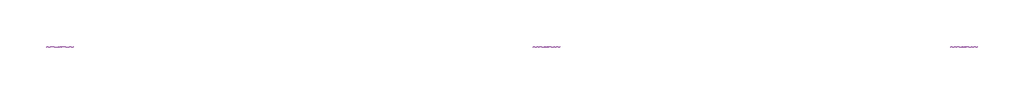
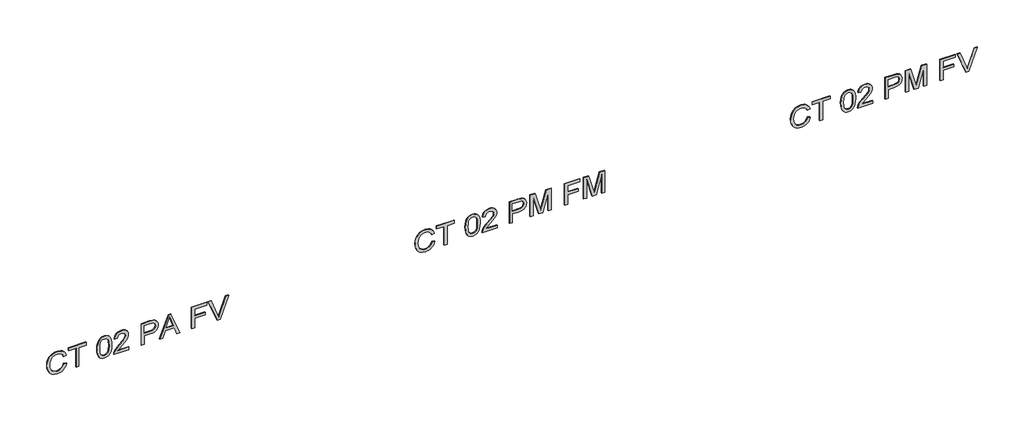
# One storey, part 2 of 2: 3 proxies.
"""IFC4 building model written with IfcOpenShell, lengths in millimetres."""

from ifc_helpers import new_model, si_unit, frame, origin, place, context, project, spatial, polyline, outline, extrude, element, save

model = new_model("IFC4")

# Units and contexts
model_context = context("Model", 3, world=origin())
ifc_project = project(units=[si_unit("LENGTHUNIT", "METRE", prefix="MILLI")], contexts=[model_context])

# Site, building, storey
site = spatial("IfcSite", under=ifc_project)
building = spatial("IfcBuilding", under=site)
storey = spatial("IfcBuildingStorey", under=building, Name="02 - Marelli - Planta Baixa - Cabine 02 Pessoas", Elevation=-12000.0)

# Proxies
placement = place(None, origin())
element("IfcBuildingElementProxy", 1, Name="300mm Arial", ObjectType="300mm Arial", at=placement, inside=storey, context=model_context, shape_type="SweptSolid", body=[
    extrude(outline(polyline([(-6192.872763, 2890.8602614), (-6225.136014, 2878.6741703), (-6248.3493679, 2858.891316), (-6262.3656719, 2832.6889209), (-6267.0377732, 2801.2442074), (-6263.6072736, 2774.2692601), (-6253.3157748, 2749.2624815), (-6236.0897004, 2728.4035724), (-6211.855474, 2713.8722335), (-6181.7627268, 2705.3465683), (-6146.96109, 2702.5046799), (-6118.5422059, 2704.9051099), (-6090.9694503, 2712.1064), (-6066.5788741, 2725.2305901), (-6047.7065277, 2745.3997205), (-6035.6216042, 2771.9791947), (-6031.5932963, 2804.3344162), (-6035.226131, 2832.4038124), (-6046.1246351, 2855.2492843), (-6064.9693903, 2873.0915611), (-6092.4409783, 2886.1513719), (-6083.4646576, 2923.8224882), (-6045.6463885, 2907.185025), (-6030.3241034, 2895.3829107), (-6017.3930513, 2881.2585414), (-6007.1245451, 2865.0786314), (-5999.7898978, 2847.1098951), (-5993.92218, 2805.8059441), (-5998.4563256, 2767.9508868), (-6012.0587624, 2733.4067675), (-6034.3983965, 2704.2797105), (-6065.1441343, 2682.6758404), (-6103.0911621, 2669.2941328), (-6147.0346664, 2664.8335636), (-6188.6973024, 2668.779098), (-6227.6008233, 2680.6157012), (-6260.6918088, 2700.0030823), (-6284.9168382, 2726.6009506), (-6299.7608767, 2761.3014198), (-6304.7088895, 2804.9966038), (-6303.0741139, 2827.4190114), (-6298.1697871, 2848.0387972), (-6289.995909, 2866.8559612), (-6278.5524797, 2883.8705035), (-6263.995849, 2898.7467317), (-6246.4823668, 2911.1489535), (-6226.012033, 2921.0771688), (-6202.5848477, 2928.5313777), (-6192.872763, 2890.8602614)])), frame((0.0, 8778.3159498, 0.0), z_axis=(0.0, 1.0, 0.0), x_axis=(0.0, 0.0, 1.0)), (0.0, 0.0, 1.0), 10.0),
    extrude(outline(polyline([(-6300.0, 3055.6713953), (-6300.0, 3093.3425116), (-6036.3021859, 3093.3425116), (-6036.3021859, 3192.2291919), (-5998.6310696, 3192.2291919), (-5998.6310696, 2956.784715), (-6036.3021859, 2956.784715), (-6036.3021859, 3055.6713953), (-6300.0, 3055.6713953)])), frame((0.0, 8778.3159498, 0.0), z_axis=(0.0, 1.0, 0.0), x_axis=(0.0, 0.0, 1.0)), (0.0, 0.0, 1.0), 10.0),
    extrude(outline(polyline([(-6151.7435559, 3338.2047676), (-6191.1851044, 3340.0809657), (-6225.0440435, 3345.7095603), (-6253.3203733, 3355.0905511), (-6276.0140939, 3368.2239384), (-6288.568067, 3381.9091486), (-6297.5351906, 3397.9488036), (-6302.9154648, 3416.3429033), (-6304.7088895, 3437.0914479), (-6300.5794141, 3467.54288), (-6288.190988, 3492.2369589), (-6267.4056552, 3511.3392315), (-6238.0854602, 3525.0152447), (-6199.7061711, 3533.2374073), (-6151.7435559, 3535.9781282), (-6111.7823742, 3534.2674769), (-6080.9262719, 3529.1355231), (-6056.6276661, 3521.2996366), (-6036.3389741, 3511.4771873), (-6020.1981515, 3498.4725588), (-6008.3431542, 3481.0901345), (-6001.0590907, 3460.3048018), (-5998.6310696, 3437.0914479), (-6002.7329538, 3406.8055626), (-6015.0386065, 3382.166666), (-6035.7411658, 3363.0368022), (-6065.0337697, 3349.2780156), (-6103.5050293, 3340.9730796), (-6151.7435559, 3338.2047676)]), holes=[polyline([(-6151.6699795, 3375.8758839), (-6093.1767423, 3380.4376206), (-6072.097104, 3386.1397915), (-6056.4621192, 3394.1228308), (-6041.3421692, 3413.0687536), (-6036.3021859, 3436.6499895), (-6042.0227509, 3461.5556005), (-6059.184446, 3481.2372873), (-6073.5456393, 3488.7052918), (-6093.7469594, 3494.0395807), (-6151.6699795, 3498.3070119), (-6210.8346014, 3493.8924279), (-6231.0980016, 3488.374198), (-6245.1487945, 3480.6486761), (-6261.5655286, 3460.9302012), (-6267.0377732, 3437.0914479), (-6261.5839227, 3413.2526946), (-6245.2223709, 3393.5342196), (-6231.1945706, 3385.8086977), (-6210.9265719, 3380.2904678), (-6151.6699795, 3375.8758839)])]), frame((0.0, 8778.3159498, 0.0), z_axis=(0.0, 1.0, 0.0), x_axis=(0.0, 0.0, 1.0)), (0.0, 0.0, 1.0), 10.0),
    extrude(outline(polyline([(-6262.3288837, 3762.004826), (-6262.3288837, 3614.0426875), (-6243.1622317, 3631.0388357), (-6206.9258552, 3674.3753348), (-6177.9091629, 3707.0708471), (-6155.3120113, 3728.3436234), (-6136.3844826, 3741.6885428), (-6118.376659, 3750.6004842), (-6100.672338, 3755.6220734), (-6082.6553172, 3757.2959365), (-6065.5028192, 3755.7439343), (-6049.8034551, 3751.0879278), (-6035.5572248, 3743.327917), (-6022.7641284, 3732.4639018), (-6012.2059152, 3718.9373407), (-6004.6643343, 3703.189692), (-6000.1393857, 3685.2209558), (-5998.6310696, 3665.0311321), (-6004.057329, 3627.1484836), (-6010.8401533, 3611.4146305), (-6020.3361073, 3597.8190916), (-6032.4164323, 3586.6193841), (-6046.9523696, 3578.0730255), (-6083.3910812, 3568.9403549), (-6088.0999708, 3606.6114712), (-6066.4501154, 3610.6857643), (-6050.0609725, 3622.4671852), (-6039.7418825, 3640.7233292), (-6036.3021859, 3664.2217917), (-6039.824656, 3686.598214), (-6050.3920663, 3704.284141), (-6066.0730363, 3715.7896504), (-6084.9361856, 3719.6248202), (-6105.9790357, 3715.5597241), (-6127.6104971, 3703.364436), (-6154.2635476, 3678.9738597), (-6190.3711654, 3638.3228992), (-6213.4281695, 3610.8237201), (-6234.0387583, 3591.1604274), (-6253.7296421, 3577.5671877), (-6274.0275311, 3568.2781673), (-6300.0, 3564.2314654), (-6300.0, 3762.004826), (-6262.3288837, 3762.004826)])), frame((0.0, 8778.3159498, 0.0), z_axis=(0.0, 1.0, 0.0), x_axis=(0.0, 0.0, 1.0)), (0.0, 0.0, 1.0), 10.0),
    extrude(outline(polyline([(-6300.0, 3931.5248494), (-6300.0, 3969.1959657), (-6177.568872, 3969.1959657), (-6177.568872, 4045.7889971), (-6175.904206, 4074.9873312), (-6170.9102079, 4099.3066303), (-6162.5868778, 4118.7468945), (-6150.9342156, 4133.3081237), (-6136.8765248, 4143.9146215), (-6121.338109, 4151.4906913), (-6104.3189682, 4156.0363333), (-6085.8191024, 4157.5515472), (-6064.362385, 4155.307467), (-6044.7266835, 4148.5752265), (-6028.0800233, 4138.154969), (-6015.5904295, 4124.8468378), (-6006.8624292, 4108.3197392), (-6001.5005491, 4088.2425793), (-5998.6310696, 4043.2138231), (-5998.6310696, 3931.5248494), (-6300.0, 3931.5248494)]), holes=[polyline([(-6139.8977557, 3969.1959657), (-6036.3021859, 3969.1959657), (-6036.3021859, 4047.1133723), (-6038.8773598, 4084.7844886), (-6045.2049301, 4099.0123247), (-6055.9470844, 4110.2051344), (-6070.2209058, 4117.4616068), (-6087.1434776, 4119.8804309), (-6109.4187324, 4115.7785467), (-6126.0653927, 4103.4728939), (-6136.4396649, 4081.3999742), (-6139.8977557, 4047.9962891), (-6139.8977557, 3969.1959657)])]), frame((0.0, 8778.3159498, 0.0), z_axis=(0.0, 1.0, 0.0), x_axis=(0.0, 0.0, 1.0)), (0.0, 0.0, 1.0), 10.0),
    extrude(outline(polyline([(-6300.0, 4174.2533898), (-6300.0, 4214.0582217), (-6205.8222092, 4248.4919764), (-6205.8222092, 4372.6153616), (-6300.0, 4407.1226927), (-6300.0, 4446.9275246), (-5998.6310696, 4326.6301122), (-5998.6310696, 4294.5508022), (-6300.0, 4174.2533898)]), holes=[polyline([(-6168.1510929, 4262.3243394), (-6087.584936, 4291.8284755), (-6036.3021859, 4310.5904572), (-6094.0596591, 4331.7068837), (-6168.1510929, 4358.856575), (-6168.1510929, 4262.3243394)])]), frame((0.0, 8778.3159498, 0.0), z_axis=(0.0, 1.0, 0.0), x_axis=(0.0, 0.0, 1.0)), (0.0, 0.0, 1.0), 10.0),
    extrude(outline(polyline([(-6300.0, 4604.8960534), (-6300.0, 4642.5671697), (-6163.4422034, 4642.5671697), (-6163.4422034, 4783.8338558), (-6125.7710871, 4783.8338558), (-6125.7710871, 4642.5671697), (-6036.3021859, 4642.5671697), (-6036.3021859, 4807.3783035), (-5998.6310696, 4807.3783035), (-5998.6310696, 4604.8960534), (-6300.0, 4604.8960534)])), frame((0.0, 8778.3159498, 0.0), z_axis=(0.0, 1.0, 0.0), x_axis=(0.0, 0.0, 1.0)), (0.0, 0.0, 1.0), 10.0),
    extrude(outline(polyline([(-6300.0, 4948.2035313), (-6300.0, 4987.1254463), (-5998.6310696, 5101.9782052), (-5998.6310696, 5061.6583386), (-6215.7550231, 4981.165758), (-6264.6833285, 4965.126103), (-6215.7550231, 4948.8657188), (-5998.6310696, 4868.5938675), (-5998.6310696, 4828.2740008), (-6300.0, 4948.2035313)])), frame((0.0, 8778.3159498, 0.0), z_axis=(0.0, 1.0, 0.0), x_axis=(0.0, 0.0, 1.0)), (0.0, 0.0, 1.0), 10.0),
])
element("IfcBuildingElementProxy", 2, Name="300mm Arial", ObjectType="300mm Arial", at=placement, inside=storey, context=model_context, shape_type="SweptSolid", body=[
    extrude(outline(polyline([(-6192.872763, 7824.9358079), (-6225.136014, 7812.7497168), (-6248.3493679, 7792.9668625), (-6262.3656719, 7766.7644674), (-6267.0377732, 7735.3197539), (-6263.6072736, 7708.3448066), (-6253.3157748, 7683.3380279), (-6236.0897004, 7662.4791188), (-6211.855474, 7647.94778), (-6181.7627268, 7639.4221148), (-6146.96109, 7636.5802264), (-6118.5422059, 7638.9806564), (-6090.9694503, 7646.1819464), (-6066.5788741, 7659.3061366), (-6047.7065277, 7679.475267), (-6035.6216042, 7706.0547411), (-6031.5932963, 7738.4099626), (-6035.226131, 7766.4793589), (-6046.1246351, 7789.3248308), (-6064.9693903, 7807.1671075), (-6092.4409783, 7820.2269184), (-6083.4646576, 7857.8980347), (-6045.6463885, 7841.2605714), (-6030.3241034, 7829.4584572), (-6017.3930513, 7815.3340878), (-6007.1245451, 7799.1541778), (-5999.7898978, 7781.1854416), (-5993.92218, 7739.8814906), (-5998.4563256, 7702.0264333), (-6012.0587624, 7667.482314), (-6034.3983965, 7638.355257), (-6065.1441343, 7616.7513868), (-6103.0911621, 7603.3696792), (-6147.0346664, 7598.9091101), (-6188.6973024, 7602.8546445), (-6227.6008233, 7614.6912476), (-6260.6918088, 7634.0786288), (-6284.9168382, 7660.676497), (-6299.7608767, 7695.3769662), (-6304.7088895, 7739.0721502), (-6303.0741139, 7761.4945578), (-6298.1697871, 7782.1143437), (-6289.995909, 7800.9315077), (-6278.5524797, 7817.94605), (-6263.995849, 7832.8222782), (-6246.4823668, 7845.2244999), (-6226.012033, 7855.1527153), (-6202.5848477, 7862.6069242), (-6192.872763, 7824.9358079)])), frame((0.0, 8778.3159498, 0.0), z_axis=(0.0, 1.0, 0.0), x_axis=(0.0, 0.0, 1.0)), (0.0, 0.0, 1.0), 10.0),
    extrude(outline(polyline([(-6300.0, 7989.7469417), (-6300.0, 8027.418058), (-6036.3021859, 8027.418058), (-6036.3021859, 8126.3047383), (-5998.6310696, 8126.3047383), (-5998.6310696, 7890.8602614), (-6036.3021859, 7890.8602614), (-6036.3021859, 7989.7469417), (-6300.0, 7989.7469417)])), frame((0.0, 8778.3159498, 0.0), z_axis=(0.0, 1.0, 0.0), x_axis=(0.0, 0.0, 1.0)), (0.0, 0.0, 1.0), 10.0),
    extrude(outline(polyline([(-6151.7435559, 8272.280314), (-6191.1851044, 8274.1565122), (-6225.0440435, 8279.7851067), (-6253.3203733, 8289.1660976), (-6276.0140939, 8302.2994848), (-6288.568067, 8315.9846951), (-6297.5351906, 8332.02435), (-6302.9154648, 8350.4184498), (-6304.7088895, 8371.1669943), (-6300.5794141, 8401.6184265), (-6288.190988, 8426.3125054), (-6267.4056552, 8445.414778), (-6238.0854602, 8459.0907912), (-6199.7061711, 8467.3129538), (-6151.7435559, 8470.0536746), (-6111.7823742, 8468.3430234), (-6080.9262719, 8463.2110695), (-6056.6276661, 8455.375183), (-6036.3389741, 8445.5527338), (-6020.1981515, 8432.5481052), (-6008.3431542, 8415.165681), (-6001.0590907, 8394.3803482), (-5998.6310696, 8371.1669943), (-6002.7329538, 8340.8811091), (-6015.0386065, 8316.2422124), (-6035.7411658, 8297.1123487), (-6065.0337697, 8283.3535621), (-6103.5050293, 8275.048626), (-6151.7435559, 8272.280314)]), holes=[polyline([(-6151.6699795, 8309.9514303), (-6093.1767423, 8314.5131671), (-6072.097104, 8320.215338), (-6056.4621192, 8328.1983773), (-6041.3421692, 8347.1443), (-6036.3021859, 8370.7255359), (-6042.0227509, 8395.631147), (-6059.184446, 8415.3128337), (-6073.5456393, 8422.7808383), (-6093.7469594, 8428.1151272), (-6151.6699795, 8432.3825583), (-6210.8346014, 8427.9679744), (-6231.0980016, 8422.4497445), (-6245.1487945, 8414.7242226), (-6261.5655286, 8395.0057476), (-6267.0377732, 8371.1669943), (-6261.5839227, 8347.328241), (-6245.2223709, 8327.6097661), (-6231.1945706, 8319.8842442), (-6210.9265719, 8314.3660143), (-6151.6699795, 8309.9514303)])]), frame((0.0, 8778.3159498, 0.0), z_axis=(0.0, 1.0, 0.0), x_axis=(0.0, 0.0, 1.0)), (0.0, 0.0, 1.0), 10.0),
    extrude(outline(polyline([(-6262.3288837, 8696.0803725), (-6262.3288837, 8548.118234), (-6243.1622317, 8565.1143822), (-6206.9258552, 8608.4508812), (-6177.9091629, 8641.1463935), (-6155.3120113, 8662.4191699), (-6136.3844826, 8675.7640893), (-6118.376659, 8684.6760306), (-6100.672338, 8689.6976199), (-6082.6553172, 8691.3714829), (-6065.5028192, 8689.8194808), (-6049.8034551, 8685.1634743), (-6035.5572248, 8677.4034634), (-6022.7641284, 8666.5394483), (-6012.2059152, 8653.0128871), (-6004.6643343, 8637.2652385), (-6000.1393857, 8619.2965023), (-5998.6310696, 8599.1066785), (-6004.057329, 8561.2240301), (-6010.8401533, 8545.490177), (-6020.3361073, 8531.894638), (-6032.4164323, 8520.6949305), (-6046.9523696, 8512.1485719), (-6083.3910812, 8503.0159014), (-6088.0999708, 8540.6870177), (-6066.4501154, 8544.7613108), (-6050.0609725, 8556.5427317), (-6039.7418825, 8574.7988757), (-6036.3021859, 8598.2973382), (-6039.824656, 8620.6737605), (-6050.3920663, 8638.3596874), (-6066.0730363, 8649.8651968), (-6084.9361856, 8653.7003666), (-6105.9790357, 8649.6352706), (-6127.6104971, 8637.4399824), (-6154.2635476, 8613.0494062), (-6190.3711654, 8572.3984457), (-6213.4281695, 8544.8992666), (-6234.0387583, 8525.2359739), (-6253.7296421, 8511.6427342), (-6274.0275311, 8502.3537138), (-6300.0, 8498.3070119), (-6300.0, 8696.0803725), (-6262.3288837, 8696.0803725)])), frame((0.0, 8778.3159498, 0.0), z_axis=(0.0, 1.0, 0.0), x_axis=(0.0, 0.0, 1.0)), (0.0, 0.0, 1.0), 10.0),
    extrude(outline(polyline([(-6300.0, 8865.6003958), (-6300.0, 8903.2715122), (-6177.568872, 8903.2715122), (-6177.568872, 8979.8645435), (-6175.904206, 9009.0628777), (-6170.9102079, 9033.3821768), (-6162.5868778, 9052.822441), (-6150.9342156, 9067.3836702), (-6136.8765248, 9077.990168), (-6121.338109, 9085.5662378), (-6104.3189682, 9090.1118797), (-6085.8191024, 9091.6270937), (-6064.362385, 9089.3830135), (-6044.7266835, 9082.650773), (-6028.0800233, 9072.2305155), (-6015.5904295, 9058.9223843), (-6006.8624292, 9042.3952857), (-6001.5005491, 9022.3181258), (-5998.6310696, 8977.2893696), (-5998.6310696, 8865.6003958), (-6300.0, 8865.6003958)]), holes=[polyline([(-6139.8977557, 8903.2715122), (-6036.3021859, 8903.2715122), (-6036.3021859, 8981.1889187), (-6038.8773598, 9018.860035), (-6045.2049301, 9033.0878712), (-6055.9470844, 9044.2806809), (-6070.2209058, 9051.5371533), (-6087.1434776, 9053.9559774), (-6109.4187324, 9049.8540931), (-6126.0653927, 9037.5484404), (-6136.4396649, 9015.4755207), (-6139.8977557, 8982.0718355), (-6139.8977557, 8903.2715122)])]), frame((0.0, 8778.3159498, 0.0), z_axis=(0.0, 1.0, 0.0), x_axis=(0.0, 0.0, 1.0)), (0.0, 0.0, 1.0), 10.0),
    extrude(outline(polyline([(-6300.0, 9143.4248786), (-6300.0, 9181.0959949), (-6036.3021859, 9181.0959949), (-6300.0, 9256.8061095), (-6300.0, 9307.8681304), (-6036.3021859, 9383.5782451), (-6300.0, 9383.5782451), (-6300.0, 9421.2493614), (-5998.6310696, 9421.2493614), (-5998.6310696, 9356.4285538), (-6207.3673136, 9295.801601), (-6255.4127022, 9282.33712), (-6211.0461336, 9269.9027085), (-5998.6310696, 9208.2456862), (-5998.6310696, 9143.4248786), (-6300.0, 9143.4248786)])), frame((0.0, 8778.3159498, 0.0), z_axis=(0.0, 1.0, 0.0), x_axis=(0.0, 0.0, 1.0)), (0.0, 0.0, 1.0), 10.0),
    extrude(outline(polyline([(-6300.0, 9604.8960534), (-6300.0, 9642.5671697), (-6163.4422034, 9642.5671697), (-6163.4422034, 9783.8338558), (-6125.7710871, 9783.8338558), (-6125.7710871, 9642.5671697), (-6036.3021859, 9642.5671697), (-6036.3021859, 9807.3783035), (-5998.6310696, 9807.3783035), (-5998.6310696, 9604.8960534), (-6300.0, 9604.8960534)])), frame((0.0, 8778.3159498, 0.0), z_axis=(0.0, 1.0, 0.0), x_axis=(0.0, 0.0, 1.0)), (0.0, 0.0, 1.0), 10.0),
    extrude(outline(polyline([(-6300.0, 9859.1760884), (-6300.0, 9896.8472047), (-6036.3021859, 9896.8472047), (-6300.0, 9972.5573193), (-6300.0, 10023.6193403), (-6036.3021859, 10099.3294549), (-6300.0, 10099.3294549), (-6300.0, 10137.0005712), (-5998.6310696, 10137.0005712), (-5998.6310696, 10072.1797636), (-6207.3673136, 10011.5528108), (-6255.4127022, 9998.0883298), (-6211.0461336, 9985.6539184), (-5998.6310696, 9923.996896), (-5998.6310696, 9859.1760884), (-6300.0, 9859.1760884)])), frame((0.0, 8778.3159498, 0.0), z_axis=(0.0, 1.0, 0.0), x_axis=(0.0, 0.0, 1.0)), (0.0, 0.0, 1.0), 10.0),
])
element("IfcBuildingElementProxy", 3, Name="300mm Arial", ObjectType="300mm Arial", at=placement, inside=storey, context=model_context, shape_type="SweptSolid", body=[
    extrude(outline(polyline([(-6192.872763, 12857.8980347), (-6225.136014, 12845.7119436), (-6248.3493679, 12825.9290893), (-6262.3656719, 12799.7266942), (-6267.0377732, 12768.2819806), (-6263.6072736, 12741.3070333), (-6253.3157748, 12716.3002547), (-6236.0897004, 12695.4413456), (-6211.855474, 12680.9100068), (-6181.7627268, 12672.3843415), (-6146.96109, 12669.5424531), (-6118.5422059, 12671.9428831), (-6090.9694503, 12679.1441732), (-6066.5788741, 12692.2683634), (-6047.7065277, 12712.4374938), (-6035.6216042, 12739.0169679), (-6031.5932963, 12771.3721894), (-6035.226131, 12799.4415856), (-6046.1246351, 12822.2870575), (-6064.9693903, 12840.1293343), (-6092.4409783, 12853.1891451), (-6083.4646576, 12890.8602614), (-6045.6463885, 12874.2227982), (-6030.3241034, 12862.4206839), (-6017.3930513, 12848.2963146), (-6007.1245451, 12832.1164046), (-5999.7898978, 12814.1476684), (-5993.92218, 12772.8437174), (-5998.4563256, 12734.9886601), (-6012.0587624, 12700.4445407), (-6034.3983965, 12671.3174838), (-6065.1441343, 12649.7136136), (-6103.0911621, 12636.331906), (-6147.0346664, 12631.8713368), (-6188.6973024, 12635.8168712), (-6227.6008233, 12647.6534744), (-6260.6918088, 12667.0408556), (-6284.9168382, 12693.6387238), (-6299.7608767, 12728.339193), (-6304.7088895, 12772.034377), (-6303.0741139, 12794.4567846), (-6298.1697871, 12815.0765704), (-6289.995909, 12833.8937345), (-6278.5524797, 12850.9082767), (-6263.995849, 12865.7845049), (-6246.4823668, 12878.1867267), (-6226.012033, 12888.114942), (-6202.5848477, 12895.569151), (-6192.872763, 12857.8980347)])), frame((0.0, 8778.3159498, 0.0), z_axis=(0.0, 1.0, 0.0), x_axis=(0.0, 0.0, 1.0)), (0.0, 0.0, 1.0), 10.0),
    extrude(outline(polyline([(-6300.0, 13022.7091685), (-6300.0, 13060.3802848), (-6036.3021859, 13060.3802848), (-6036.3021859, 13159.2669651), (-5998.6310696, 13159.2669651), (-5998.6310696, 12923.8224882), (-6036.3021859, 12923.8224882), (-6036.3021859, 13022.7091685), (-6300.0, 13022.7091685)])), frame((0.0, 8778.3159498, 0.0), z_axis=(0.0, 1.0, 0.0), x_axis=(0.0, 0.0, 1.0)), (0.0, 0.0, 1.0), 10.0),
    extrude(outline(polyline([(-6151.7435559, 13305.2425408), (-6191.1851044, 13307.118739), (-6225.0440435, 13312.7473335), (-6253.3203733, 13322.1283244), (-6276.0140939, 13335.2617116), (-6288.568067, 13348.9469218), (-6297.5351906, 13364.9865768), (-6302.9154648, 13383.3806766), (-6304.7088895, 13404.1292211), (-6300.5794141, 13434.5806532), (-6288.190988, 13459.2747322), (-6267.4056552, 13478.3770048), (-6238.0854602, 13492.0530179), (-6199.7061711, 13500.2751805), (-6151.7435559, 13503.0159014), (-6111.7823742, 13501.3052501), (-6080.9262719, 13496.1732963), (-6056.6276661, 13488.3374098), (-6036.3389741, 13478.5149605), (-6020.1981515, 13465.510332), (-6008.3431542, 13448.1279077), (-6001.0590907, 13427.342575), (-5998.6310696, 13404.1292211), (-6002.7329538, 13373.8433358), (-6015.0386065, 13349.2044392), (-6035.7411658, 13330.0745755), (-6065.0337697, 13316.3157888), (-6103.5050293, 13308.0108528), (-6151.7435559, 13305.2425408)]), holes=[polyline([(-6151.6699795, 13342.9136571), (-6093.1767423, 13347.4753938), (-6072.097104, 13353.1775648), (-6056.4621192, 13361.1606041), (-6041.3421692, 13380.1065268), (-6036.3021859, 13403.6877627), (-6042.0227509, 13428.5933738), (-6059.184446, 13448.2750605), (-6073.5456393, 13455.743065), (-6093.7469594, 13461.0773539), (-6151.6699795, 13465.3447851), (-6210.8346014, 13460.9302012), (-6231.0980016, 13455.4119712), (-6245.1487945, 13447.6864493), (-6261.5655286, 13427.9679744), (-6267.0377732, 13404.1292211), (-6261.5839227, 13380.2904678), (-6245.2223709, 13360.5719929), (-6231.1945706, 13352.846471), (-6210.9265719, 13347.328241), (-6151.6699795, 13342.9136571)])]), frame((0.0, 8778.3159498, 0.0), z_axis=(0.0, 1.0, 0.0), x_axis=(0.0, 0.0, 1.0)), (0.0, 0.0, 1.0), 10.0),
    extrude(outline(polyline([(-6262.3288837, 13729.0425992), (-6262.3288837, 13581.0804608), (-6243.1622317, 13598.076609), (-6206.9258552, 13641.413108), (-6177.9091629, 13674.1086203), (-6155.3120113, 13695.3813967), (-6136.3844826, 13708.7263161), (-6118.376659, 13717.6382574), (-6100.672338, 13722.6598466), (-6082.6553172, 13724.3337097), (-6065.5028192, 13722.7817075), (-6049.8034551, 13718.125701), (-6035.5572248, 13710.3656902), (-6022.7641284, 13699.501675), (-6012.2059152, 13685.9751139), (-6004.6643343, 13670.2274653), (-6000.1393857, 13652.2587291), (-5998.6310696, 13632.0689053), (-6004.057329, 13594.1862569), (-6010.8401533, 13578.4524038), (-6020.3361073, 13564.8568648), (-6032.4164323, 13553.6571573), (-6046.9523696, 13545.1107987), (-6083.3910812, 13535.9781282), (-6088.0999708, 13573.6492445), (-6066.4501154, 13577.7235376), (-6050.0609725, 13589.5049585), (-6039.7418825, 13607.7611025), (-6036.3021859, 13631.2595649), (-6039.824656, 13653.6359873), (-6050.3920663, 13671.3219142), (-6066.0730363, 13682.8274236), (-6084.9361856, 13686.6625934), (-6105.9790357, 13682.5974973), (-6127.6104971, 13670.4022092), (-6154.2635476, 13646.0116329), (-6190.3711654, 13605.3606725), (-6213.4281695, 13577.8614933), (-6234.0387583, 13558.1982007), (-6253.7296421, 13544.604961), (-6274.0275311, 13535.3159406), (-6300.0, 13531.2692386), (-6300.0, 13729.0425992), (-6262.3288837, 13729.0425992)])), frame((0.0, 8778.3159498, 0.0), z_axis=(0.0, 1.0, 0.0), x_axis=(0.0, 0.0, 1.0)), (0.0, 0.0, 1.0), 10.0),
    extrude(outline(polyline([(-6300.0, 13898.5626226), (-6300.0, 13936.2337389), (-6177.568872, 13936.2337389), (-6177.568872, 14012.8267703), (-6175.904206, 14042.0251044), (-6170.9102079, 14066.3444036), (-6162.5868778, 14085.7846677), (-6150.9342156, 14100.345897), (-6136.8765248, 14110.9523947), (-6121.338109, 14118.5284646), (-6104.3189682, 14123.0741065), (-6085.8191024, 14124.5893204), (-6064.362385, 14122.3452403), (-6044.7266835, 14115.6129998), (-6028.0800233, 14105.1927423), (-6015.5904295, 14091.8846111), (-6006.8624292, 14075.3575124), (-6001.5005491, 14055.2803526), (-5998.6310696, 14010.2515963), (-5998.6310696, 13898.5626226), (-6300.0, 13898.5626226)]), holes=[polyline([(-6139.8977557, 13936.2337389), (-6036.3021859, 13936.2337389), (-6036.3021859, 14014.1511455), (-6038.8773598, 14051.8222618), (-6045.2049301, 14066.050098), (-6055.9470844, 14077.2429077), (-6070.2209058, 14084.49938), (-6087.1434776, 14086.9182041), (-6109.4187324, 14082.8163199), (-6126.0653927, 14070.5106672), (-6136.4396649, 14048.4377474), (-6139.8977557, 14015.0340623), (-6139.8977557, 13936.2337389)])]), frame((0.0, 8778.3159498, 0.0), z_axis=(0.0, 1.0, 0.0), x_axis=(0.0, 0.0, 1.0)), (0.0, 0.0, 1.0), 10.0),
    extrude(outline(polyline([(-6300.0, 14176.3871054), (-6300.0, 14214.0582217), (-6036.3021859, 14214.0582217), (-6300.0, 14289.7683363), (-6300.0, 14340.8303572), (-6036.3021859, 14416.5404718), (-6300.0, 14416.5404718), (-6300.0, 14454.2115881), (-5998.6310696, 14454.2115881), (-5998.6310696, 14389.3907806), (-6207.3673136, 14328.7638278), (-6255.4127022, 14315.2993467), (-6211.0461336, 14302.8649353), (-5998.6310696, 14241.2079129), (-5998.6310696, 14176.3871054), (-6300.0, 14176.3871054)])), frame((0.0, 8778.3159498, 0.0), z_axis=(0.0, 1.0, 0.0), x_axis=(0.0, 0.0, 1.0)), (0.0, 0.0, 1.0), 10.0),
    extrude(outline(polyline([(-6300.0, 14637.8582801), (-6300.0, 14675.5293964), (-6163.4422034, 14675.5293964), (-6163.4422034, 14816.7960826), (-6125.7710871, 14816.7960826), (-6125.7710871, 14675.5293964), (-6036.3021859, 14675.5293964), (-6036.3021859, 14840.3405303), (-5998.6310696, 14840.3405303), (-5998.6310696, 14637.8582801), (-6300.0, 14637.8582801)])), frame((0.0, 8778.3159498, 0.0), z_axis=(0.0, 1.0, 0.0), x_axis=(0.0, 0.0, 1.0)), (0.0, 0.0, 1.0), 10.0),
    extrude(outline(polyline([(-6300.0, 14981.165758), (-6300.0, 15020.0876731), (-5998.6310696, 15134.940432), (-5998.6310696, 15094.6205653), (-6215.7550231, 15014.1279848), (-6264.6833285, 14998.0883298), (-6215.7550231, 14981.8279456), (-5998.6310696, 14901.5560943), (-5998.6310696, 14861.2362276), (-6300.0, 14981.165758)])), frame((0.0, 8778.3159498, 0.0), z_axis=(0.0, 1.0, 0.0), x_axis=(0.0, 0.0, 1.0)), (0.0, 0.0, 1.0), 10.0),
])

save(model, "model.ifc")
